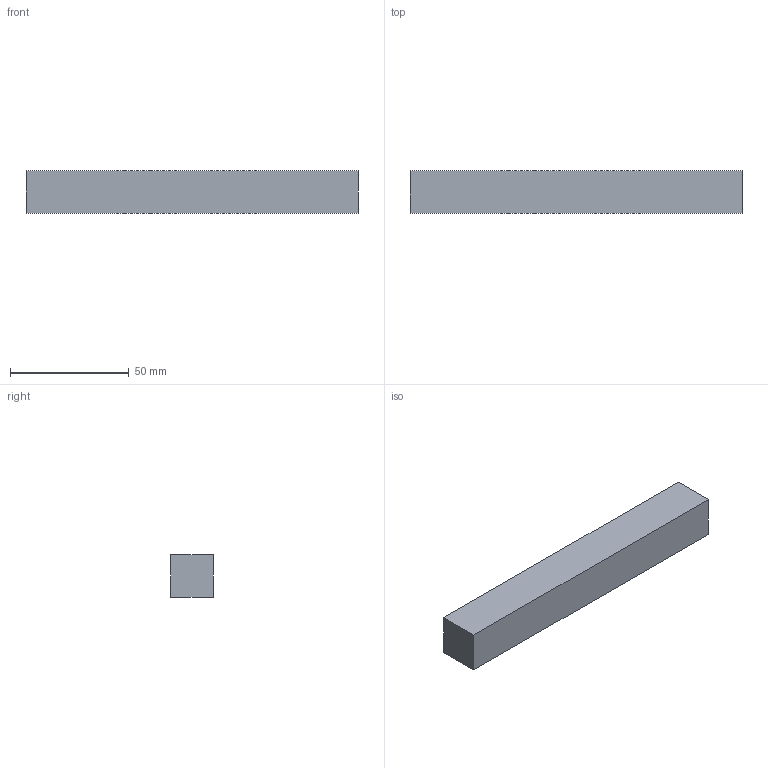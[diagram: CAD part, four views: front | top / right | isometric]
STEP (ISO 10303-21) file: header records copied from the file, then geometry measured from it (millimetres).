
FILE_DESCRIPTION(('Open CASCADE Model'),'2;1');
FILE_NAME('Open CASCADE Shape Model','2026-10-04T01:02:25',('Author'),( 'Open CASCADE'),'Open CASCADE STEP processor 8.0','Open CASCADE 8.0' ,'Unknown');
FILE_SCHEMA(('AUTOMOTIVE_DESIGN { 1 0 10303 214 1 1 1 1 }'));
Length unit declared in the file: millimetre
Products named in the file (1): Open CASCADE STEP translator 8.0 24
Bounding box: 140 x 18 x 18 mm (x, y, z)
Volume: 45360 mm3; surface area: 10728 mm2
Topology: 1 solids, 1 shells, 6 faces, 12 edges, 8 vertices
Faces by surface type: plane 6
Entity records: 322 total; most frequent: CARTESIAN_POINT 51, DIRECTION 50, LINE 36, VECTOR 36, ORIENTED_EDGE 24, PCURVE 24, DEFINITIONAL_REPRESENTATION 24, EDGE_CURVE 12
